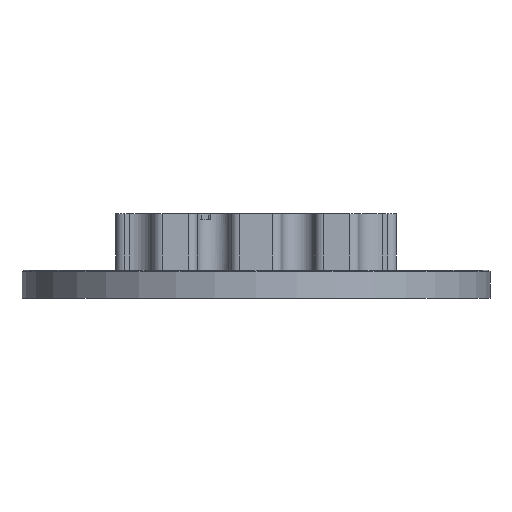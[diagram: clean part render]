
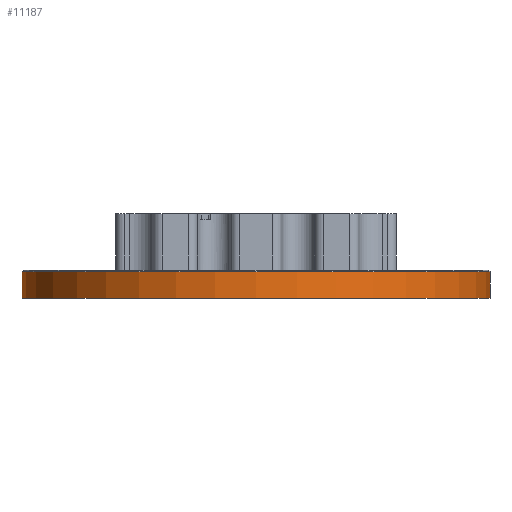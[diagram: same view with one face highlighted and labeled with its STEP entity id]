
A CAD part, front view. The second image highlights one B-rep face of the part: STEP entity #11187.
In plain terms, the highlighted cylindrical face has radius 50 mm (diameter 100 mm), a full revolution.
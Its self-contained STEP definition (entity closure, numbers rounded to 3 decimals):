
#644=CYLINDRICAL_SURFACE('',#12407,50.);
#1180=FACE_OUTER_BOUND('',#1892,.T.);
#1892=EDGE_LOOP('',(#10270,#10271,#10272,#10273,#10274));
#2915=LINE('',#19037,#3936);
#3936=VECTOR('',#15667,50.);
#4558=CIRCLE('',#12309,50.);
#4629=CIRCLE('',#12405,50.);
#4630=CIRCLE('',#12406,50.);
#5578=VERTEX_POINT('',#18794);
#5672=VERTEX_POINT('',#19031);
#5673=VERTEX_POINT('',#19033);
#7122=EDGE_CURVE('',#5578,#5578,#4558,.T.);
#7241=EDGE_CURVE('',#5672,#5673,#4629,.T.);
#7242=EDGE_CURVE('',#5673,#5672,#4630,.T.);
#7243=EDGE_CURVE('',#5673,#5578,#2915,.T.);
#10270=ORIENTED_EDGE('',*,*,#7241,.F.);
#10271=ORIENTED_EDGE('',*,*,#7242,.F.);
#10272=ORIENTED_EDGE('',*,*,#7243,.T.);
#10273=ORIENTED_EDGE('',*,*,#7122,.T.);
#10274=ORIENTED_EDGE('',*,*,#7243,.F.);
#11187=ADVANCED_FACE('',(#1180),#644,.T.);
#12309=AXIS2_PLACEMENT_3D('',#18795,#15421,#15422);
#12405=AXIS2_PLACEMENT_3D('',#19034,#15661,#15662);
#12406=AXIS2_PLACEMENT_3D('',#19035,#15663,#15664);
#12407=AXIS2_PLACEMENT_3D('',#19036,#15665,#15666);
#15421=DIRECTION('center_axis',(0.,0.,1.));
#15422=DIRECTION('ref_axis',(1.,0.,0.));
#15661=DIRECTION('center_axis',(0.,0.,1.));
#15662=DIRECTION('ref_axis',(-1.,0.,0.));
#15663=DIRECTION('center_axis',(0.,0.,1.));
#15664=DIRECTION('ref_axis',(-1.,0.,0.));
#15665=DIRECTION('center_axis',(0.,0.,1.));
#15666=DIRECTION('ref_axis',(1.,0.,0.));
#15667=DIRECTION('',(0.,0.,-1.));
#18794=CARTESIAN_POINT('',(-50.,0.,0.));
#18795=CARTESIAN_POINT('Origin',(0.,0.,0.));
#19031=CARTESIAN_POINT('',(50.,0.,5.6));
#19033=CARTESIAN_POINT('',(-50.,0.,5.6));
#19034=CARTESIAN_POINT('Origin',(0.,0.,5.6));
#19035=CARTESIAN_POINT('Origin',(0.,0.,5.6));
#19036=CARTESIAN_POINT('Origin',(0.,0.,0.));
#19037=CARTESIAN_POINT('',(-50.,0.,0.));
